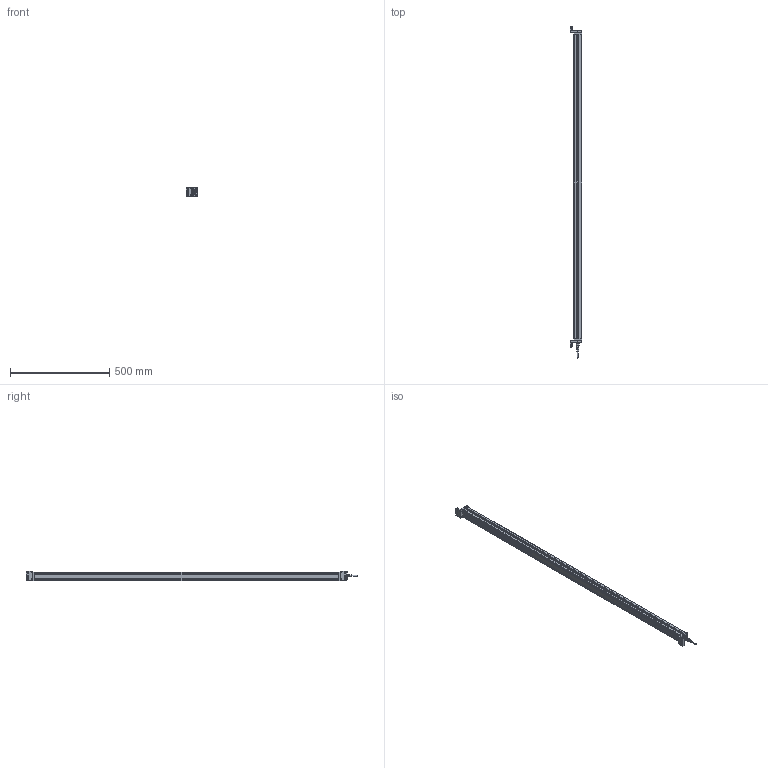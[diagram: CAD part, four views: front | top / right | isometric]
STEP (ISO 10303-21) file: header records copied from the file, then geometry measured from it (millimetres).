
FILE_DESCRIPTION (( 'STEP AP214' ), '1' );
FILE_NAME ('SH10 59in with Brackets Step.STEP', '2026-09-02T19:47:15', ( '' ), ( '' ), 'SwSTEP 2.0', 'SolidWorks 2025', '' );
FILE_SCHEMA (( 'AUTOMOTIVE_DESIGN' ));
Length unit declared in the file: millimetre
Products named in the file (4): 1500 Solidworks; Cable Female End; 02-4017-00_V241.stp; SH10 59in with Brackets Step
Assembly tree (4 placements, depth 2):
  SH10 59in with Brackets Step
    1500 Solidworks
    02-4017-00_V241.stp  x2
    Cable Female End
Bounding box: 56.2 x 1669.14 x 48.75 mm (x, y, z)
Volume: 885490.5 mm3; surface area: 677206.9 mm2
Topology: 12 solids, 12 shells, 1215 faces, 3151 edges, 1991 vertices
Faces by surface type: cylinder 563, plane 411, bspline 143, torus 52, cone 46
Entity records: 51115 total; most frequent: CARTESIAN_POINT 12992, ORIENTED_EDGE 5752, DIRECTION 5678, EDGE_CURVE 2876, AXIS2_PLACEMENT_3D 2114, VERTEX_POINT 1843, VECTOR 1450, LINE 1450
